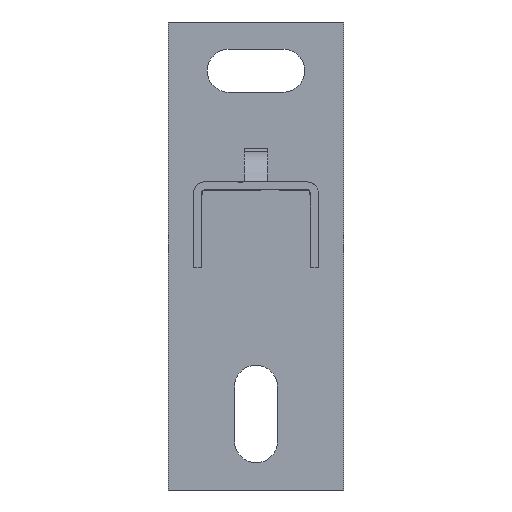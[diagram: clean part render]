
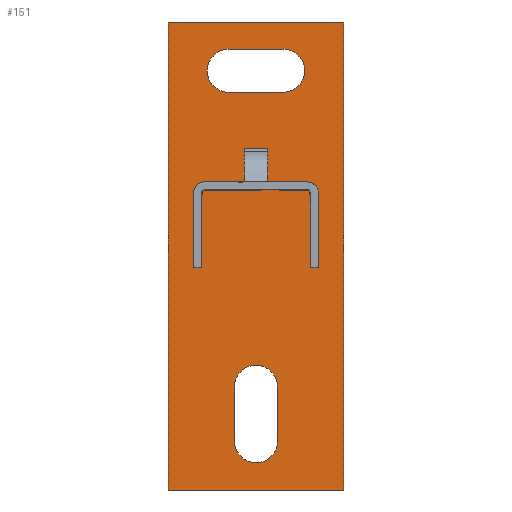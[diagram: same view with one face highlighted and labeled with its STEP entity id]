
A CAD part, front view. The second image highlights one B-rep face of the part: STEP entity #151.
In plain terms, the highlighted planar face has unit normal (0, -1, 0).
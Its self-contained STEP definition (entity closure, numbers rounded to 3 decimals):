
#101=FACE_BOUND($,#298,.T.);
#102=FACE_BOUND($,#299,.T.);
#151=ADVANCED_FACE($,(#221,#101,#102),#1049,.T.);
#221=FACE_OUTER_BOUND($,#297,.T.);
#297=EDGE_LOOP($,(#565,#566,#567,#568));
#298=EDGE_LOOP($,(#569,#570));
#299=EDGE_LOOP($,(#571,#572));
#565=ORIENTED_EDGE($,*,*,#805,.T.);
#566=ORIENTED_EDGE($,*,*,#816,.T.);
#567=ORIENTED_EDGE($,*,*,#815,.T.);
#568=ORIENTED_EDGE($,*,*,#814,.T.);
#569=ORIENTED_EDGE($,*,*,#806,.T.);
#570=ORIENTED_EDGE($,*,*,#824,.T.);
#571=ORIENTED_EDGE($,*,*,#807,.T.);
#572=ORIENTED_EDGE($,*,*,#827,.T.);
#805=EDGE_CURVE($,#945,#953,#1225,.T.);
#806=EDGE_CURVE($,#946,#957,#1119,.T.);
#807=EDGE_CURVE($,#947,#959,#1120,.T.);
#814=EDGE_CURVE($,#951,#945,#1230,.T.);
#815=EDGE_CURVE($,#952,#951,#1231,.T.);
#816=EDGE_CURVE($,#953,#952,#1232,.T.);
#824=EDGE_CURVE($,#957,#946,#1123,.T.);
#827=EDGE_CURVE($,#959,#947,#1125,.T.);
#945=VERTEX_POINT($,#2990);
#946=VERTEX_POINT($,#2991);
#947=VERTEX_POINT($,#2992);
#951=VERTEX_POINT($,#2996);
#952=VERTEX_POINT($,#2997);
#953=VERTEX_POINT($,#2998);
#957=VERTEX_POINT($,#3002);
#959=VERTEX_POINT($,#3004);
#1049=PLANE($,#1271);
#1119=(
BOUNDED_CURVE()
B_SPLINE_CURVE(2,(#2842,#2843,#2844,#2845,#2846,#2847,#2848),.UNSPECIFIED.,
.F.,.F.)
B_SPLINE_CURVE_WITH_KNOTS((3,2,2,3),(-111.115,-97.115,
-88.476,-79.836),.UNSPECIFIED.)
CURVE()
GEOMETRIC_REPRESENTATION_ITEM()
RATIONAL_B_SPLINE_CURVE((1.,1.,1.,0.707,1.,0.707,
1.))
REPRESENTATION_ITEM($)
);
#1120=(
BOUNDED_CURVE()
B_SPLINE_CURVE(2,(#2849,#2850,#2851,#2852,#2853,#2854,#2855),.UNSPECIFIED.,
.F.,.F.)
B_SPLINE_CURVE_WITH_KNOTS((3,2,2,3),(-111.115,-97.115,
-88.476,-79.836),.UNSPECIFIED.)
CURVE()
GEOMETRIC_REPRESENTATION_ITEM()
RATIONAL_B_SPLINE_CURVE((1.,1.,1.,0.707,1.,0.707,
1.))
REPRESENTATION_ITEM($)
);
#1123=(
BOUNDED_CURVE()
B_SPLINE_CURVE(2,(#2898,#2899,#2900,#2901,#2902,#2903,#2904),.UNSPECIFIED.,
.F.,.F.)
B_SPLINE_CURVE_WITH_KNOTS((3,2,2,3),(-79.836,-65.836,
-57.197,-48.558),.UNSPECIFIED.)
CURVE()
GEOMETRIC_REPRESENTATION_ITEM()
RATIONAL_B_SPLINE_CURVE((1.,1.,1.,0.707,1.,0.707,
1.))
REPRESENTATION_ITEM($)
);
#1125=(
BOUNDED_CURVE()
B_SPLINE_CURVE(2,(#2914,#2915,#2916,#2917,#2918,#2919,#2920),.UNSPECIFIED.,
.F.,.F.)
B_SPLINE_CURVE_WITH_KNOTS((3,2,2,3),(-79.836,-65.836,
-57.197,-48.558),.UNSPECIFIED.)
CURVE()
GEOMETRIC_REPRESENTATION_ITEM()
RATIONAL_B_SPLINE_CURVE((1.,1.,1.,0.707,1.,0.707,
1.))
REPRESENTATION_ITEM($)
);
#1225=B_SPLINE_CURVE_WITH_KNOTS($,1,(#2840,#2841),.UNSPECIFIED.,.F.,.F.,
(2,2),(0.,45.),.UNSPECIFIED.);
#1230=B_SPLINE_CURVE_WITH_KNOTS($,1,(#2878,#2879),.UNSPECIFIED.,.F.,.F.,
(2,2),(210.,330.),.UNSPECIFIED.);
#1231=B_SPLINE_CURVE_WITH_KNOTS($,1,(#2880,#2881),.UNSPECIFIED.,.F.,.F.,
(2,2),(165.,210.),.UNSPECIFIED.);
#1232=B_SPLINE_CURVE_WITH_KNOTS($,1,(#2882,#2883),.UNSPECIFIED.,.F.,.F.,
(2,2),(45.,165.),.UNSPECIFIED.);
#1271=AXIS2_PLACEMENT_3D($,#2928,#1285,$);
#1285=DIRECTION($,(0.,-1.,0.));
#2840=CARTESIAN_POINT($,(-22.5,0.,-120.));
#2841=CARTESIAN_POINT($,(22.5,0.,-120.));
#2842=CARTESIAN_POINT($,(-7.,0.,-7.));
#2843=CARTESIAN_POINT($,(0.,0.,-7.));
#2844=CARTESIAN_POINT($,(7.,0.,-7.));
#2845=CARTESIAN_POINT($,(12.5,0.,-7.));
#2846=CARTESIAN_POINT($,(12.5,0.,-12.5));
#2847=CARTESIAN_POINT($,(12.5,0.,-18.));
#2848=CARTESIAN_POINT($,(7.,0.,-18.));
#2849=CARTESIAN_POINT($,(5.5,0.,-93.5));
#2850=CARTESIAN_POINT($,(5.5,0.,-100.5));
#2851=CARTESIAN_POINT($,(5.5,0.,-107.5));
#2852=CARTESIAN_POINT($,(5.5,0.,-113.));
#2853=CARTESIAN_POINT($,(0.,0.,-113.));
#2854=CARTESIAN_POINT($,(-5.5,0.,-113.));
#2855=CARTESIAN_POINT($,(-5.5,0.,-107.5));
#2878=CARTESIAN_POINT($,(-22.5,0.,0.));
#2879=CARTESIAN_POINT($,(-22.5,0.,-120.));
#2880=CARTESIAN_POINT($,(22.5,0.,0.));
#2881=CARTESIAN_POINT($,(-22.5,0.,0.));
#2882=CARTESIAN_POINT($,(22.5,0.,-120.));
#2883=CARTESIAN_POINT($,(22.5,0.,0.));
#2898=CARTESIAN_POINT($,(7.,0.,-18.));
#2899=CARTESIAN_POINT($,(0.,0.,-18.));
#2900=CARTESIAN_POINT($,(-7.,0.,-18.));
#2901=CARTESIAN_POINT($,(-12.5,0.,-18.));
#2902=CARTESIAN_POINT($,(-12.5,0.,-12.5));
#2903=CARTESIAN_POINT($,(-12.5,0.,-7.));
#2904=CARTESIAN_POINT($,(-7.,0.,-7.));
#2914=CARTESIAN_POINT($,(-5.5,0.,-107.5));
#2915=CARTESIAN_POINT($,(-5.5,0.,-100.5));
#2916=CARTESIAN_POINT($,(-5.5,0.,-93.5));
#2917=CARTESIAN_POINT($,(-5.5,0.,-88.));
#2918=CARTESIAN_POINT($,(0.,0.,-88.));
#2919=CARTESIAN_POINT($,(5.5,0.,-88.));
#2920=CARTESIAN_POINT($,(5.5,0.,-93.5));
#2928=CARTESIAN_POINT($,(-22.5,0.,-120.));
#2990=CARTESIAN_POINT($,(-22.5,0.,-120.));
#2991=CARTESIAN_POINT($,(-7.,0.,-7.));
#2992=CARTESIAN_POINT($,(5.5,0.,-93.5));
#2996=CARTESIAN_POINT($,(-22.5,0.,0.));
#2997=CARTESIAN_POINT($,(22.5,0.,0.));
#2998=CARTESIAN_POINT($,(22.5,0.,-120.));
#3002=CARTESIAN_POINT($,(7.,0.,-18.));
#3004=CARTESIAN_POINT($,(-5.5,0.,-107.5));
